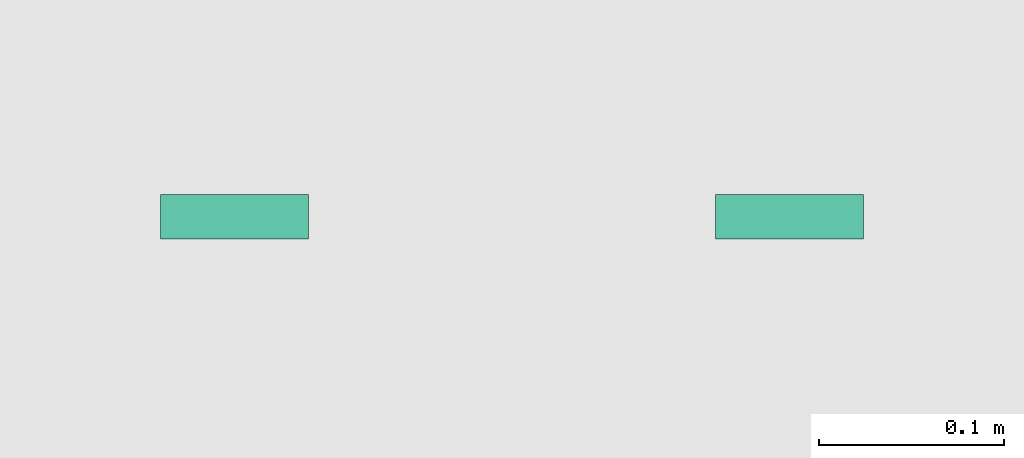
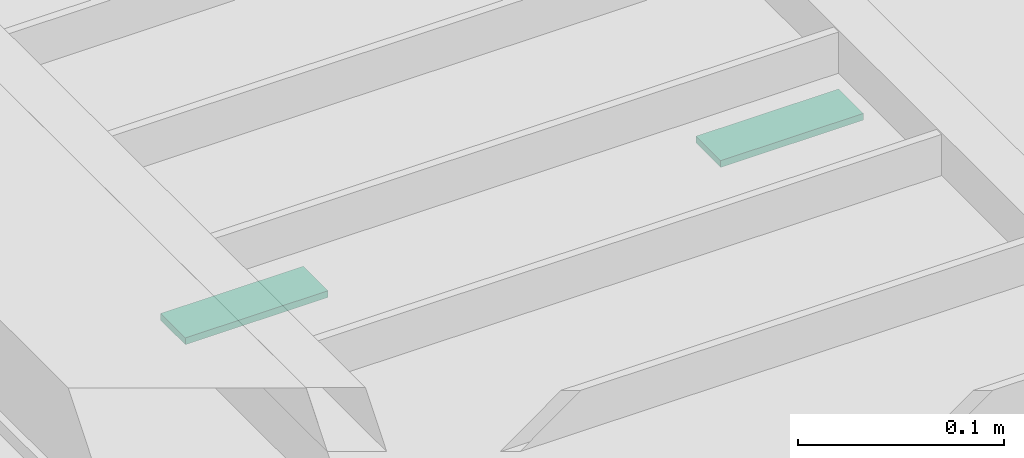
# One storey, part 129 of 151: 2 distribution chamber elements.
"""IFC2X3 building model written with IfcOpenShell, lengths in metres."""

from ifc_helpers import new_model, si_unit, origin, origin_with_axes, place, context, subcontext, project, spatial, faceted_brep, element, save


model = new_model("IFC2X3")

# Units and contexts
model_context = context("Model", 3, precision=1e-05, world=origin_with_axes())
body_context = subcontext(model_context, "Body", "Model", "MODEL_VIEW")
ifc_project = project(units=[si_unit("LENGTHUNIT", "METRE"), si_unit("AREAUNIT", "SQUARE_METRE"), si_unit("VOLUMEUNIT", "CUBIC_METRE"), si_unit("PLANEANGLEUNIT", "RADIAN")], contexts=[model_context])

# Site, building, storey
site_placement = place(None, origin_with_axes())
site = spatial("IfcSite", under=ifc_project, at=site_placement, Name="Predio Los Mangos - Morales, San Martín", CompositionType="ELEMENT")
building_placement = place(site_placement, origin())
building = spatial("IfcBuilding", under=site, at=building_placement, Name="Hogar de Refugio Temporal", CompositionType="ELEMENT")
storey_placement = place(building_placement, origin())
storey = spatial("IfcBuildingStorey", under=building, at=storey_placement, Name="NIVEL 1 (NPT +0.00)", CompositionType="ELEMENT", Elevation=0.0)

# Distribution chamber elements
distribution_chamber_element_1_placement = place(storey_placement, origin())
element("IfcDistributionChamberElement", 1, at=distribution_chamber_element_1_placement, inside=storey, Name="tapa_insp_asa", ObjectType="Tapa de inspección", context=body_context, shape_type="Brep", body=[
    faceted_brep([(2.236, 42.78, 0.104), (2.236, 42.804, 0.104), (2.316, 42.804, 0.104), (2.316, 42.78, 0.104), (2.236, 42.78, 0.108), (2.316, 42.78, 0.108), (2.316, 42.804, 0.108), (2.236, 42.804, 0.108)], [[[0, 1, 2, 3]], [[4, 5, 6, 7]], [[0, 3, 5, 4]], [[3, 2, 6, 5]], [[2, 1, 7, 6]], [[1, 0, 4, 7]]]),
])
distribution_chamber_element_2_placement = place(storey_placement, origin())
element("IfcDistributionChamberElement", 2, at=distribution_chamber_element_2_placement, inside=storey, Name="tapa_insp_asa", ObjectType="Tapa de inspección", context=body_context, shape_type="Brep", body=[
    faceted_brep([(2.536, 42.78, 0.104), (2.536, 42.804, 0.104), (2.616, 42.804, 0.104), (2.616, 42.78, 0.104), (2.536, 42.78, 0.108), (2.616, 42.78, 0.108), (2.616, 42.804, 0.108), (2.536, 42.804, 0.108)], [[[0, 1, 2, 3]], [[4, 5, 6, 7]], [[0, 3, 5, 4]], [[3, 2, 6, 5]], [[2, 1, 7, 6]], [[1, 0, 4, 7]]]),
])

save(model, "model.ifc")
